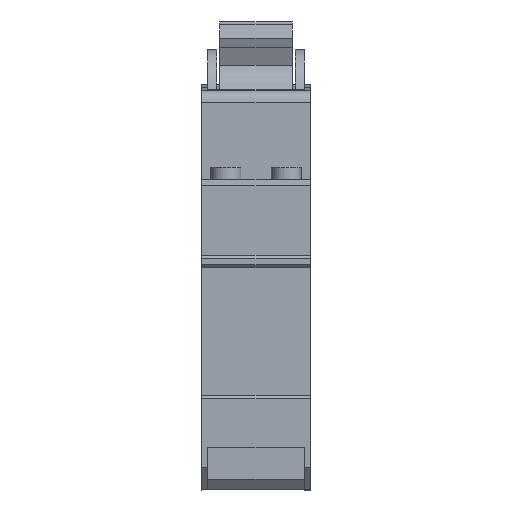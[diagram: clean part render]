
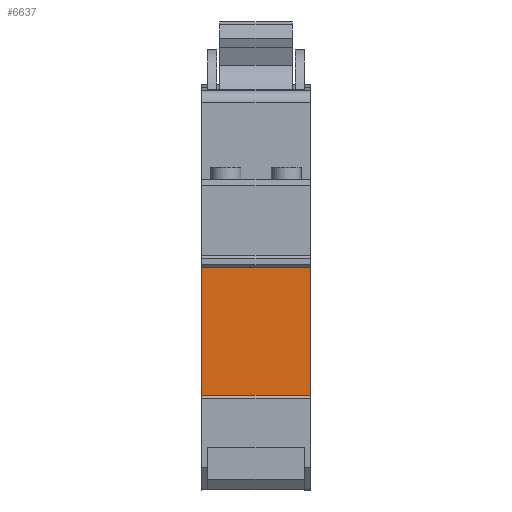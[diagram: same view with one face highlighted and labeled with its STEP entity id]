
A CAD part, front view. The second image highlights one B-rep face of the part: STEP entity #6637.
In plain terms, the highlighted planar face has unit normal (0, -1, 0).
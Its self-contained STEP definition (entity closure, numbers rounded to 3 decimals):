
#513=PLANE('',#7173);
#871=FACE_OUTER_BOUND('',#1319,.T.);
#1319=EDGE_LOOP('',(#5504,#5505,#5506,#5507));
#2080=LINE('',#11139,#2636);
#2146=LINE('',#11450,#2702);
#2147=LINE('',#11453,#2703);
#2148=LINE('',#11454,#2704);
#2636=VECTOR('',#8112,10.);
#2702=VECTOR('',#8458,10.);
#2703=VECTOR('',#8461,10.);
#2704=VECTOR('',#8462,10.);
#3233=VERTEX_POINT('',#11136);
#3234=VERTEX_POINT('',#11138);
#3339=VERTEX_POINT('',#11448);
#3340=VERTEX_POINT('',#11452);
#3994=EDGE_CURVE('',#3234,#3233,#2080,.T.);
#4127=EDGE_CURVE('',#3233,#3339,#2146,.T.);
#4128=EDGE_CURVE('',#3340,#3339,#2147,.T.);
#4129=EDGE_CURVE('',#3234,#3340,#2148,.T.);
#5504=ORIENTED_EDGE('',*,*,#3994,.T.);
#5505=ORIENTED_EDGE('',*,*,#4127,.T.);
#5506=ORIENTED_EDGE('',*,*,#4128,.F.);
#5507=ORIENTED_EDGE('',*,*,#4129,.F.);
#6637=ADVANCED_FACE('',(#871),#513,.T.);
#7173=AXIS2_PLACEMENT_3D('',#11451,#8459,#8460);
#8112=DIRECTION('',(0.,0.,-1.));
#8458=DIRECTION('',(1.,0.,0.));
#8459=DIRECTION('center_axis',(0.,-1.,0.));
#8460=DIRECTION('ref_axis',(0.,0.,-1.));
#8461=DIRECTION('',(0.,0.,-1.));
#8462=DIRECTION('',(1.,0.,0.));
#11136=CARTESIAN_POINT('',(0.,-36.074,-24.923));
#11138=CARTESIAN_POINT('',(0.,-36.074,-3.815));
#11139=CARTESIAN_POINT('',(0.,-36.074,-3.815));
#11448=CARTESIAN_POINT('',(18.,-36.074,-24.923));
#11450=CARTESIAN_POINT('',(0.,-36.074,-24.923));
#11451=CARTESIAN_POINT('Origin',(0.,-36.074,-3.815));
#11452=CARTESIAN_POINT('',(18.,-36.074,-3.815));
#11453=CARTESIAN_POINT('',(18.,-36.074,-3.815));
#11454=CARTESIAN_POINT('',(0.,-36.074,-3.815));
